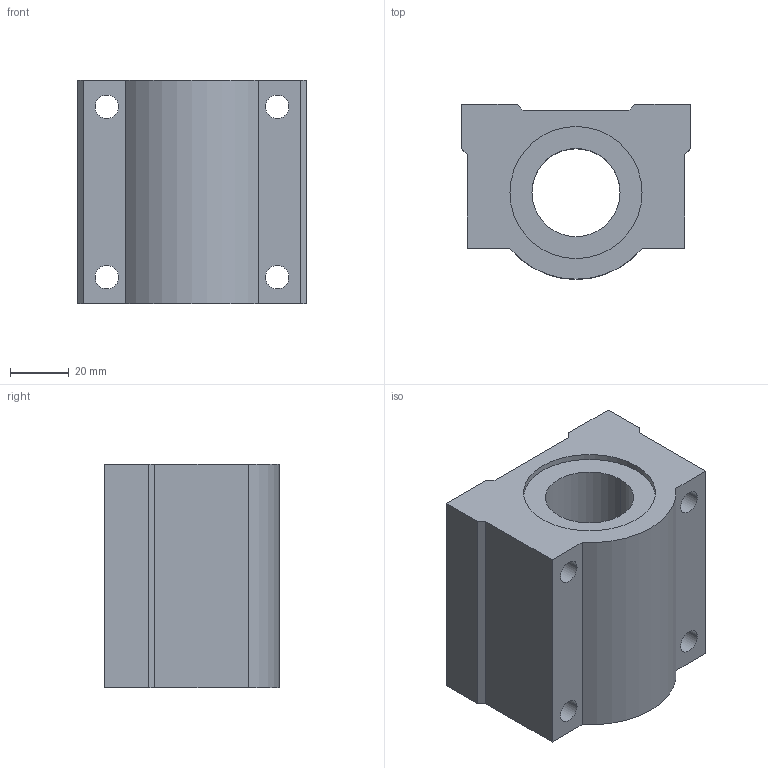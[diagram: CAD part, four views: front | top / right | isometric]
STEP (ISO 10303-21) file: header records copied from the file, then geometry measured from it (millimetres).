
FILE_DESCRIPTION((''),'2;1');
FILE_NAME('C:\Documents and Settings\ｿﾀﾀ蠑ｷ1\ｹﾙﾅﾁ ﾈｭｸ饅\ｺﾎﾇｰﾆﾄﾀﾏ\ﾁｦﾇｰ\SCE_UU\SCE30UU.stp','2005-06-22T15:37:08',('ｿﾀﾀ蠑ｷ1'),(''),'Autodesk Inventor 9','Autodesk Inventor 9','');
FILE_SCHEMA(('AUTOMOTIVE_DESIGN { 1 0 10303 214 1 1 1 1 }'));
Length unit declared in the file: millimetre
Products named in the file (1): SCE__UU
Bounding box: 78 x 59.5 x 76 mm (x, y, z)
Volume: 232577.8 mm3; surface area: 38074.5 mm2
Topology: 1 solids, 1 shells, 32 faces, 84 edges, 56 vertices
Faces by surface type: plane 17, bspline 8, cylinder 7
Entity records: 1145 total; most frequent: CARTESIAN_POINT 309, ORIENTED_EDGE 168, DIRECTION 164, EDGE_CURVE 84, VERTEX_POINT 56, AXIS2_PLACEMENT_3D 55, VECTOR 54, LINE 54
